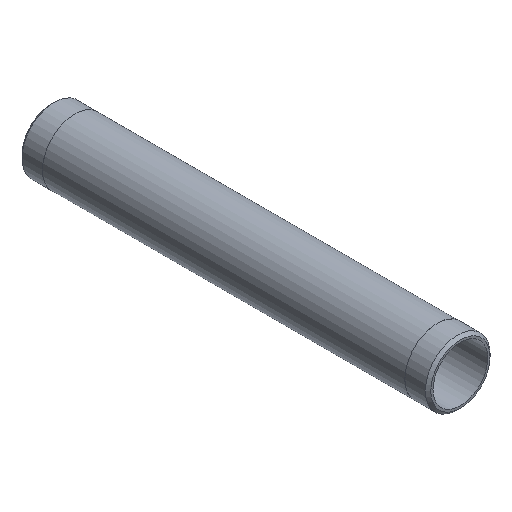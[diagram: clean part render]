
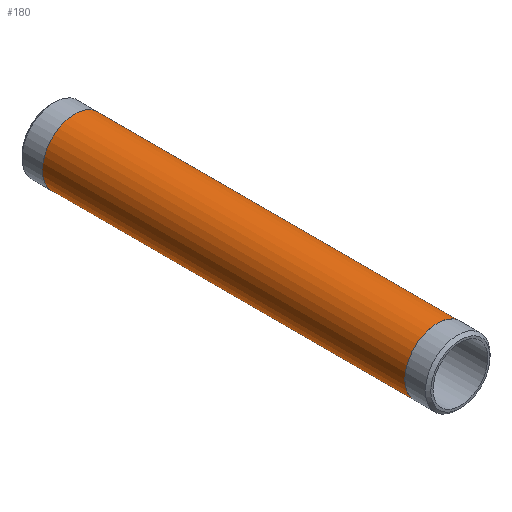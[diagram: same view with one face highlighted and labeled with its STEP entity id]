
A CAD part, isometric view. The second image highlights one B-rep face of the part: STEP entity #180.
In plain terms, the highlighted cylindrical face has radius 24.13 mm (diameter 48.26 mm), a full revolution.
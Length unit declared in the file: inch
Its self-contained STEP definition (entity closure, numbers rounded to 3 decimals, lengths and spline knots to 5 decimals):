
#25=CYLINDRICAL_SURFACE('',#220,0.95);
#34=FACE_OUTER_BOUND('',#47,.T.);
#47=EDGE_LOOP('',(#155,#156,#157,#158,#159,#160));
#55=LINE('',#338,#61);
#61=VECTOR('',#283,0.95);
#77=CIRCLE('',#218,0.95);
#78=CIRCLE('',#219,0.95);
#79=CIRCLE('',#221,0.95);
#80=CIRCLE('',#222,0.95);
#95=VERTEX_POINT('',#329);
#96=VERTEX_POINT('',#330);
#97=VERTEX_POINT('',#334);
#98=VERTEX_POINT('',#335);
#117=EDGE_CURVE('',#95,#96,#77,.T.);
#118=EDGE_CURVE('',#96,#95,#78,.T.);
#119=EDGE_CURVE('',#97,#98,#79,.T.);
#120=EDGE_CURVE('',#98,#97,#80,.T.);
#121=EDGE_CURVE('',#98,#96,#55,.T.);
#155=ORIENTED_EDGE('',*,*,#119,.F.);
#156=ORIENTED_EDGE('',*,*,#120,.F.);
#157=ORIENTED_EDGE('',*,*,#121,.T.);
#158=ORIENTED_EDGE('',*,*,#118,.T.);
#159=ORIENTED_EDGE('',*,*,#117,.T.);
#160=ORIENTED_EDGE('',*,*,#121,.F.);
#180=ADVANCED_FACE('',(#34),#25,.T.);
#218=AXIS2_PLACEMENT_3D('',#331,#273,#274);
#219=AXIS2_PLACEMENT_3D('',#332,#275,#276);
#220=AXIS2_PLACEMENT_3D('',#333,#277,#278);
#221=AXIS2_PLACEMENT_3D('',#336,#279,#280);
#222=AXIS2_PLACEMENT_3D('',#337,#281,#282);
#273=DIRECTION('center_axis',(0.,-1.,0.));
#274=DIRECTION('ref_axis',(1.,0.,0.));
#275=DIRECTION('center_axis',(0.,-1.,0.));
#276=DIRECTION('ref_axis',(1.,0.,0.));
#277=DIRECTION('center_axis',(0.,-1.,0.));
#278=DIRECTION('ref_axis',(0.,0.,-1.));
#279=DIRECTION('center_axis',(0.,-1.,0.));
#280=DIRECTION('ref_axis',(1.,0.,0.));
#281=DIRECTION('center_axis',(0.,-1.,0.));
#282=DIRECTION('ref_axis',(1.,0.,0.));
#283=DIRECTION('',(0.,1.,0.));
#329=CARTESIAN_POINT('',(0.,11.319,-0.95));
#330=CARTESIAN_POINT('',(0.,11.319,0.95));
#331=CARTESIAN_POINT('Origin',(0.,11.319,0.));
#332=CARTESIAN_POINT('Origin',(0.,11.319,0.));
#333=CARTESIAN_POINT('Origin',(0.,6.,0.));
#334=CARTESIAN_POINT('',(0.,0.681,-0.95));
#335=CARTESIAN_POINT('',(0.,0.681,0.95));
#336=CARTESIAN_POINT('Origin',(0.,0.681,0.));
#337=CARTESIAN_POINT('Origin',(0.,0.681,0.));
#338=CARTESIAN_POINT('',(0.,6.,0.95));
